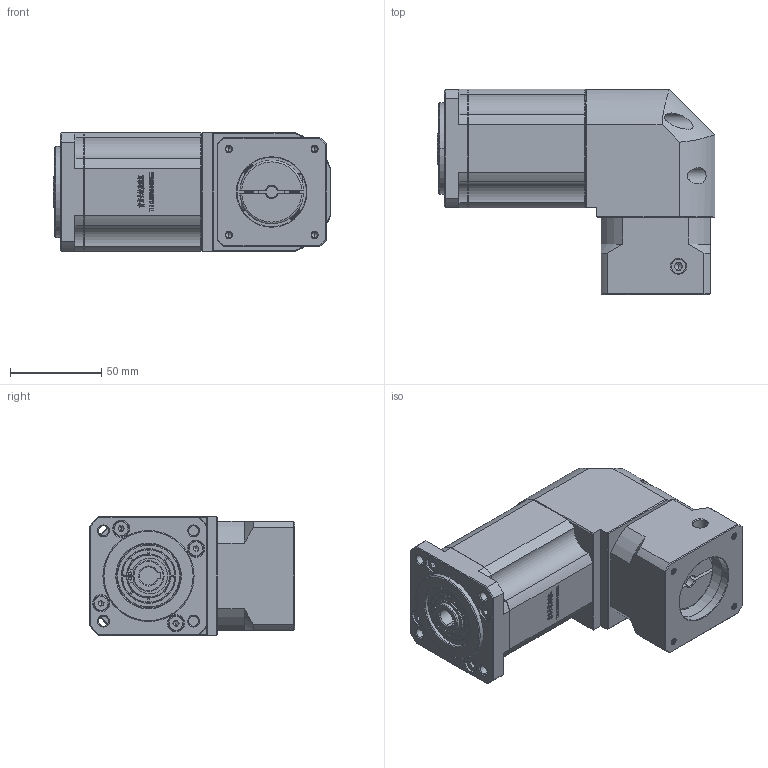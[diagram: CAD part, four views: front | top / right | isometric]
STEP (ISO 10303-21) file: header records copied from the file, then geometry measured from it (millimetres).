
FILE_DESCRIPTION (( 'STEP AP214' ), '1' );
FILE_NAME ('ZBR60-K10-L3-6.35-38.1-47.14x47.14-M4.STEP', '2022-04-19T08:14:56', ( '' ), ( 'Microsoft' ), 'SwSTEP 2.0', 'SolidWorks 2016', '' );
FILE_SCHEMA (( 'AUTOMOTIVE_DESIGN' ));
Length unit declared in the file: millimetre
Products named in the file (1): ZBR60-K10-L3-6.35-38.1-47.14x47.14-M4
Bounding box: 152.5 x 112.7 x 65 mm (x, y, z)
Volume: 644918.5 mm3; surface area: 85990.4 mm2
Topology: 5 solids, 5 shells, 2786 faces, 7524 edges, 4878 vertices
Faces by surface type: plane 1470, bspline 584, cylinder 387, cone 325, torus 20
Entity records: 147200 total; most frequent: CARTESIAN_POINT 50661, ORIENTED_EDGE 14992, DIRECTION 11464, EDGE_CURVE 7496, VECTOR 4990, LINE 4990, VERTEX_POINT 4878, AXIS2_PLACEMENT_3D 3237
